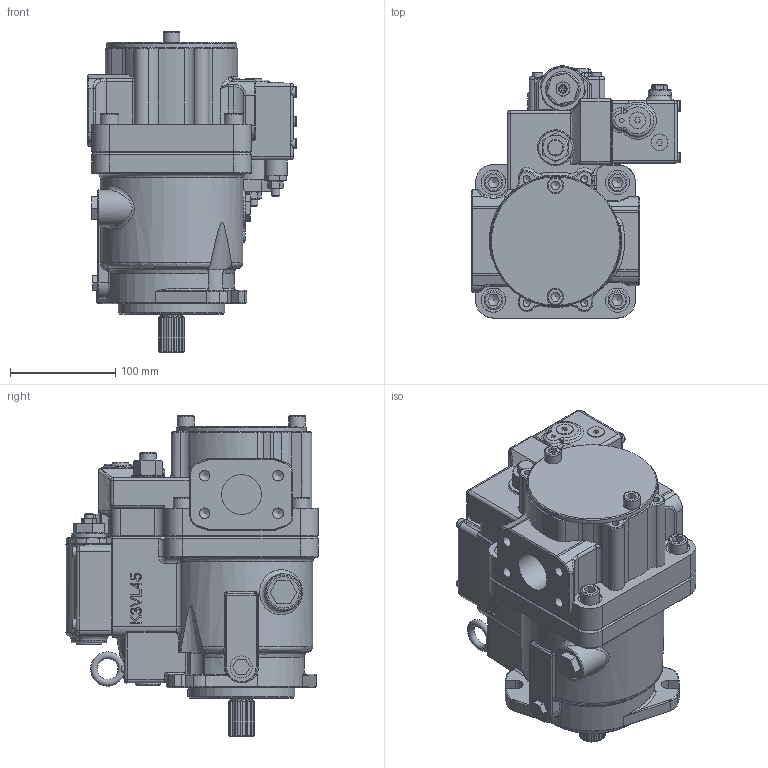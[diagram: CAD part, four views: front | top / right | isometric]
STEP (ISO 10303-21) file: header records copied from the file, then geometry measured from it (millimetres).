
FILE_DESCRIPTION((''),'2;1');
FILE_NAME('J:\Inventor\K3V, M2X\MODEL LIBRARY\K3VL45B 1NRSS L0 1M.stp','2008-04-07T09:57:45',('mnorman'),(''),'Autodesk Inventor 2008','Autodesk Inventor 2008','');
FILE_SCHEMA(('AUTOMOTIVE_DESIGN { 1 0 10303 214 1 1 1 1 }'));
Length unit declared in the file: millimetre
Products named in the file (1): Part11
Bounding box: 199 x 239.93 x 305 mm (x, y, z)
Volume: 5142941.9 mm3; surface area: 365461.3 mm2
Topology: 1 solids, 27 shells, 1448 faces, 3491 edges, 2141 vertices
Faces by surface type: plane 630, cylinder 316, bspline 267, cone 178, torus 46, sphere 11
Full cylindrical faces by diameter (mm): 6 x8, 6.5 x4, 8 x7, 10 x8, 11 x4, 12 x4, 16 x6, 18 x4, 21 x1, 21.3 x1, 22 x2, 24 x3, 25 x1, 26 x1, 30 x5, 32 x1, 33 x2, 35.5 x1, 36 x1, 38 x1, 46 x1, 75 x1, 82.55 x1, 90 x2, 101.6 x1, 105 x1, 124 x1
Entity records: 55994 total; most frequent: CARTESIAN_POINT 24268, ORIENTED_EDGE 6310, DIRECTION 6012, EDGE_CURVE 3155, AXIS2_PLACEMENT_3D 2284, VERTEX_POINT 2030, EDGE_LOOP 1745, FACE_OUTER_BOUND 1448
